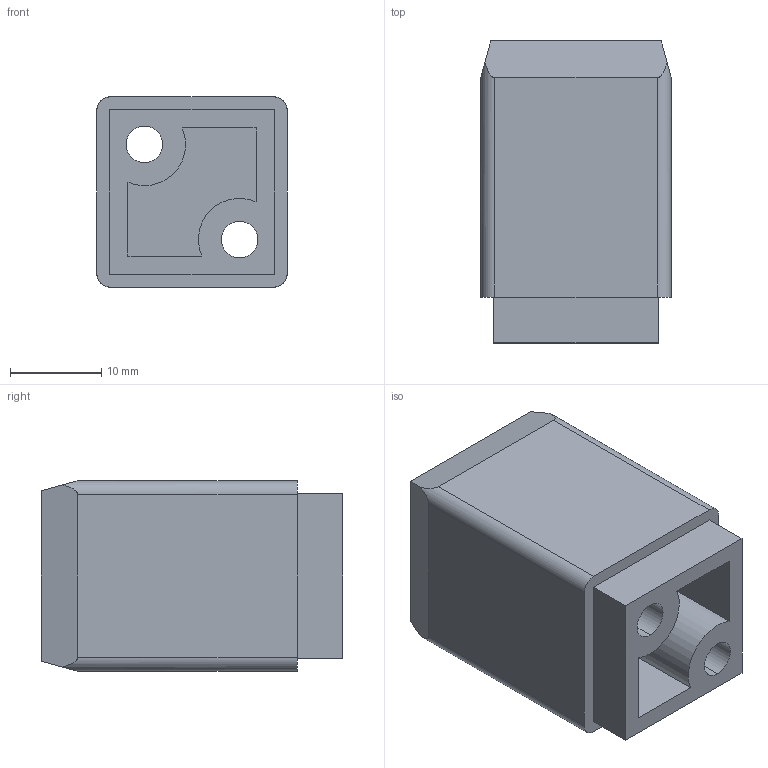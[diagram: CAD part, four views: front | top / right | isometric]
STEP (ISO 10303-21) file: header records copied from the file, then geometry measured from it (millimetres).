
FILE_DESCRIPTION (( 'STEP AP203' ), '1' );
FILE_NAME ('F025101.STEP', '2017-03-22T12:35:24', ( 'Localadmin' ), ( 'Microsoft' ), 'SwSTEP 2.0', 'SolidWorks 2016', '' );
FILE_SCHEMA (( 'CONFIG_CONTROL_DESIGN' ));
Length unit declared in the file: millimetre
Products named in the file (1): F025101
Bounding box: 20.8 x 33 x 20.8 mm (x, y, z)
Volume: 7014.1 mm3; surface area: 6421.2 mm2
Topology: 1 solids, 1 shells, 37 faces, 93 edges, 62 vertices
Faces by surface type: plane 22, cylinder 15
Entity records: 1198 total; most frequent: CARTESIAN_POINT 217, DIRECTION 187, ORIENTED_EDGE 186, EDGE_CURVE 93, AXIS2_PLACEMENT_3D 64, VERTEX_POINT 62, LINE 59, VECTOR 59
